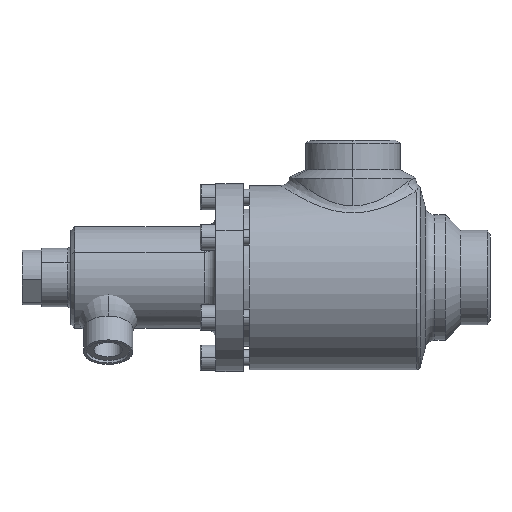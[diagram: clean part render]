
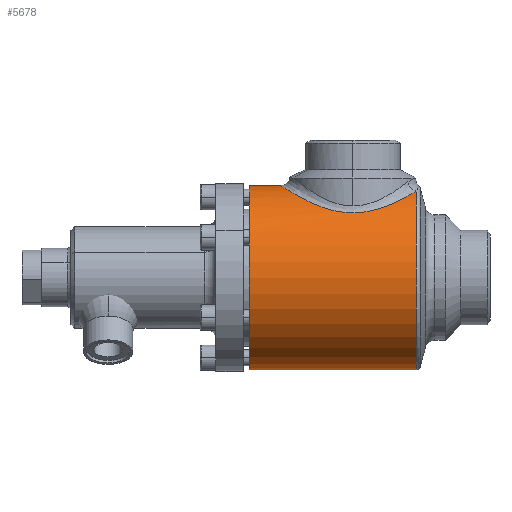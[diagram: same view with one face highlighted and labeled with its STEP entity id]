
A CAD part, left-side view. The second image highlights one B-rep face of the part: STEP entity #5678.
In plain terms, the highlighted cylindrical face has radius 47 mm (diameter 94 mm), a partial arc.
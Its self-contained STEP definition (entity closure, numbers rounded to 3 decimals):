
#232 = VERTEX_POINT ( 'NONE', #13436 ) ;
#1441 = VERTEX_POINT ( 'NONE', #14200 ) ;
#1654 = EDGE_CURVE ( 'NONE', #1971, #1441, #14421, .T. ) ;
#1971 = VERTEX_POINT ( 'NONE', #14693 ) ;
#3441 = ORIENTED_EDGE ( 'NONE', *, *, #12020, .T. ) ;
#3926 = VERTEX_POINT ( 'NONE', #11899 ) ;
#4135 = EDGE_CURVE ( 'NONE', #1971, #3926, #12007, .T. ) ;
#4477 = ORIENTED_EDGE ( 'NONE', *, *, #4135, .T. ) ;
#4965 = ORIENTED_EDGE ( 'NONE', *, *, #1654, .F. ) ;
#5451 = EDGE_LOOP ( 'NONE', ( #4965, #4477, #3441, #11522, #11032 ) ) ;
#5678 = ADVANCED_FACE ( 'NONE', ( #14004 ), #14005, .T. ) ;
#10679 = EDGE_CURVE ( 'NONE', #1441, #232, #14520, .T. ) ;
#11032 = ORIENTED_EDGE ( 'NONE', *, *, #10679, .F. ) ;
#11088 = B_SPLINE_CURVE_WITH_KNOTS ( 'NONE', 3,
 ( #11089, #11090, #11091, #11092, #11093, #11094, #11095, #11096, #11097, #11098, #11099, #11100, #11101, #11104, #11105, #11106, #11107, #11108, #11109, #11110, #11111, #11112, #11113, #11114, #11115, #11116, #11117, #11118, #11119, #11123, #11124, #11125, #11126, #11127, #11128, #11129, #11130, #11131, #11132, #11133, #11134, #11135, #11136, #11137, #11138, #11139, #11140, #11141, #11142, #11143, #11144, #11145, #11146, #11147, #11148, #11149, #11150, #11151, #11152, #11153, #11154, #11156 ),
 .UNSPECIFIED., .F., .F.,
 ( 4, 2, 2, 2, 2, 2, 2, 2, 2, 2, 2, 2, 2, 2, 2, 2, 2, 2, 2, 2, 2, 2, 2, 2, 2, 2, 2, 2, 2, 2, 4 ),
 ( 0.017, 0.023, 0.026, 0.029, 0.035, 0.039, 0.04, 0.042, 0.048, 0.051, 0.052, 0.054, 0.06, 0.063, 0.066, 0.069, 0.072, 0.078, 0.081, 0.083, 0.084, 0.09, 0.093, 0.095, 0.096, 0.103, 0.106, 0.107, 0.109, 0.112, 0.115 ),
 .UNSPECIFIED. ) ;
#11089 = CARTESIAN_POINT ( 'NONE',  ( -16.073, -85.446, 44.166 ) ) ;
#11090 = CARTESIAN_POINT ( 'NONE',  ( -17.749, -84.43, 43.556 ) ) ;
#11091 = CARTESIAN_POINT ( 'NONE',  ( -19.293, -83.29, 42.887 ) ) ;
#11092 = CARTESIAN_POINT ( 'NONE',  ( -21.444, -81.41, 41.831 ) ) ;
#11093 = CARTESIAN_POINT ( 'NONE',  ( -22.133, -80.755, 41.469 ) ) ;
#11094 = CARTESIAN_POINT ( 'NONE',  ( -23.459, -79.389, 40.734 ) ) ;
#11095 = CARTESIAN_POINT ( 'NONE',  ( -24.096, -78.676, 40.359 ) ) ;
#11096 = CARTESIAN_POINT ( 'NONE',  ( -25.907, -76.48, 39.24 ) ) ;
#11097 = CARTESIAN_POINT ( 'NONE',  ( -26.989, -74.936, 38.497 ) ) ;
#11098 = CARTESIAN_POINT ( 'NONE',  ( -28.44, -72.491, 37.424 ) ) ;
#11099 = CARTESIAN_POINT ( 'NONE',  ( -28.894, -71.655, 37.073 ) ) ;
#11100 = CARTESIAN_POINT ( 'NONE',  ( -29.533, -70.366, 36.563 ) ) ;
#11101 = CARTESIAN_POINT ( 'NONE',  ( -29.739, -69.93, 36.396 ) ) ;
#11104 = CARTESIAN_POINT ( 'NONE',  ( -30.137, -69.047, 36.067 ) ) ;
#11105 = CARTESIAN_POINT ( 'NONE',  ( -30.328, -68.599, 35.906 ) ) ;
#11106 = CARTESIAN_POINT ( 'NONE',  ( -31.243, -66.344, 35.126 ) ) ;
#11107 = CARTESIAN_POINT ( 'NONE',  ( -31.842, -64.482, 34.576 ) ) ;
#11108 = CARTESIAN_POINT ( 'NONE',  ( -32.541, -61.591, 33.914 ) ) ;
#11109 = CARTESIAN_POINT ( 'NONE',  ( -32.74, -60.61, 33.721 ) ) ;
#11110 = CARTESIAN_POINT ( 'NONE',  ( -32.986, -59.111, 33.48 ) ) ;
#11111 = CARTESIAN_POINT ( 'NONE',  ( -33.059, -58.608, 33.408 ) ) ;
#11112 = CARTESIAN_POINT ( 'NONE',  ( -33.186, -57.603, 33.282 ) ) ;
#11113 = CARTESIAN_POINT ( 'NONE',  ( -33.239, -57.1, 33.229 ) ) ;
#11114 = CARTESIAN_POINT ( 'NONE',  ( -33.462, -54.583, 33.006 ) ) ;
#11115 = CARTESIAN_POINT ( 'NONE',  ( -33.49, -52.562, 32.976 ) ) ;
#11116 = CARTESIAN_POINT ( 'NONE',  ( -33.307, -49.52, 33.161 ) ) ;
#11117 = CARTESIAN_POINT ( 'NONE',  ( -33.207, -48.498, 33.262 ) ) ;
#11118 = CARTESIAN_POINT ( 'NONE',  ( -32.933, -46.49, 33.532 ) ) ;
#11119 = CARTESIAN_POINT ( 'NONE',  ( -32.761, -45.501, 33.702 ) ) ;
#11123 = CARTESIAN_POINT ( 'NONE',  ( -32.346, -43.55, 34.1 ) ) ;
#11124 = CARTESIAN_POINT ( 'NONE',  ( -32.103, -42.587, 34.33 ) ) ;
#11125 = CARTESIAN_POINT ( 'NONE',  ( -31.549, -40.688, 34.839 ) ) ;
#11126 = CARTESIAN_POINT ( 'NONE',  ( -31.237, -39.749, 35.121 ) ) ;
#11127 = CARTESIAN_POINT ( 'NONE',  ( -30.211, -37.009, 36.016 ) ) ;
#11128 = CARTESIAN_POINT ( 'NONE',  ( -29.406, -35.272, 36.683 ) ) ;
#11129 = CARTESIAN_POINT ( 'NONE',  ( -28.021, -32.781, 37.738 ) ) ;
#11130 = CARTESIAN_POINT ( 'NONE',  ( -27.529, -31.97, 38.099 ) ) ;
#11131 = CARTESIAN_POINT ( 'NONE',  ( -26.744, -30.781, 38.65 ) ) ;
#11132 = CARTESIAN_POINT ( 'NONE',  ( -26.475, -30.389, 38.835 ) ) ;
#11133 = CARTESIAN_POINT ( 'NONE',  ( -25.92, -29.615, 39.208 ) ) ;
#11134 = CARTESIAN_POINT ( 'NONE',  ( -25.634, -29.233, 39.396 ) ) ;
#11135 = CARTESIAN_POINT ( 'NONE',  ( -24.175, -27.357, 40.33 ) ) ;
#11136 = CARTESIAN_POINT ( 'NONE',  ( -22.902, -25.964, 41.072 ) ) ;
#11137 = CARTESIAN_POINT ( 'NONE',  ( -20.822, -24.029, 42.143 ) ) ;
#11138 = CARTESIAN_POINT ( 'NONE',  ( -20.099, -23.411, 42.494 ) ) ;
#11139 = CARTESIAN_POINT ( 'NONE',  ( -18.969, -22.523, 43.004 ) ) ;
#11140 = CARTESIAN_POINT ( 'NONE',  ( -18.584, -22.235, 43.172 ) ) ;
#11141 = CARTESIAN_POINT ( 'NONE',  ( -17.798, -21.671, 43.502 ) ) ;
#11142 = CARTESIAN_POINT ( 'NONE',  ( -17.396, -21.396, 43.664 ) ) ;
#11143 = CARTESIAN_POINT ( 'NONE',  ( -15.356, -20.064, 44.455 ) ) ;
#11144 = CARTESIAN_POINT ( 'NONE',  ( -13.635, -19.147, 45.018 ) ) ;
#11145 = CARTESIAN_POINT ( 'NONE',  ( -10.906, -18.006, 45.727 ) ) ;
#11146 = CARTESIAN_POINT ( 'NONE',  ( -9.972, -17.666, 45.94 ) ) ;
#11147 = CARTESIAN_POINT ( 'NONE',  ( -8.53, -17.219, 46.222 ) ) ;
#11148 = CARTESIAN_POINT ( 'NONE',  ( -8.041, -17.081, 46.31 ) ) ;
#11149 = CARTESIAN_POINT ( 'NONE',  ( -7.058, -16.829, 46.47 ) ) ;
#11150 = CARTESIAN_POINT ( 'NONE',  ( -6.563, -16.715, 46.542 ) ) ;
#11151 = CARTESIAN_POINT ( 'NONE',  ( -5.066, -16.41, 46.737 ) ) ;
#11152 = CARTESIAN_POINT ( 'NONE',  ( -4.049, -16.255, 46.836 ) ) ;
#11153 = CARTESIAN_POINT ( 'NONE',  ( -2.024, -16.051, 46.967 ) ) ;
#11154 = CARTESIAN_POINT ( 'NONE',  ( -1.011, -16., 47. ) ) ;
#11156 = CARTESIAN_POINT ( 'NONE',  ( 0., -16., 47. ) ) ;
#11522 = ORIENTED_EDGE ( 'NONE', *, *, #14082, .T. ) ;
#11646 = CARTESIAN_POINT ( 'NONE',  ( 0., -16., 47. ) ) ;
#11816 = LINE ( 'NONE', #11817, #11818 ) ;
#11817 = CARTESIAN_POINT ( 'NONE',  ( 0., -91., 47. ) ) ;
#11818 = VECTOR ( 'NONE', #11819, 1000. ) ;
#11819 = DIRECTION ( 'NONE',  ( 0., 1., 0. ) ) ;
#11899 = CARTESIAN_POINT ( 'NONE',  ( -16.073, -85.446, 44.166 ) ) ;
#12007 = CIRCLE ( 'NONE', #12008, 47. ) ;
#12008 = AXIS2_PLACEMENT_3D ( 'NONE', #12009, #12010, #12011 ) ;
#12009 = CARTESIAN_POINT ( 'NONE',  ( 0., -85.446, 0. ) ) ;
#12010 = DIRECTION ( 'NONE',  ( 0., 1., 0. ) ) ;
#12011 = DIRECTION ( 'NONE',  ( 0., 0., -1. ) ) ;
#12020 = EDGE_CURVE ( 'NONE', #3926, #13876, #11088, .T. ) ;
#13436 = CARTESIAN_POINT ( 'NONE',  ( 0., 0., 47. ) ) ;
#13876 = VERTEX_POINT ( 'NONE', #11646 ) ;
#14004 = FACE_OUTER_BOUND ( 'NONE', #5451, .T. ) ;
#14005 = CYLINDRICAL_SURFACE ( 'NONE', #14006, 47. ) ;
#14006 = AXIS2_PLACEMENT_3D ( 'NONE', #14007, #14008, #14009 ) ;
#14007 = CARTESIAN_POINT ( 'NONE',  ( 0., -91., 0. ) ) ;
#14008 = DIRECTION ( 'NONE',  ( 0., 1., 0. ) ) ;
#14009 = DIRECTION ( 'NONE',  ( 0., 0., 1. ) ) ;
#14082 = EDGE_CURVE ( 'NONE', #13876, #232, #11816, .T. ) ;
#14200 = CARTESIAN_POINT ( 'NONE',  ( 0., 0., -47. ) ) ;
#14421 = LINE ( 'NONE', #14422, #14423 ) ;
#14422 = CARTESIAN_POINT ( 'NONE',  ( 0., -91., -47. ) ) ;
#14423 = VECTOR ( 'NONE', #14424, 1000. ) ;
#14424 = DIRECTION ( 'NONE',  ( 0., 1., 0. ) ) ;
#14520 = CIRCLE ( 'NONE', #14521, 47. ) ;
#14521 = AXIS2_PLACEMENT_3D ( 'NONE', #14522, #14523, #14524 ) ;
#14522 = CARTESIAN_POINT ( 'NONE',  ( 0., 0., 0. ) ) ;
#14523 = DIRECTION ( 'NONE',  ( 0., 1., 0. ) ) ;
#14524 = DIRECTION ( 'NONE',  ( 0., 0., 1. ) ) ;
#14693 = CARTESIAN_POINT ( 'NONE',  ( 0., -85.446, -47. ) ) ;
